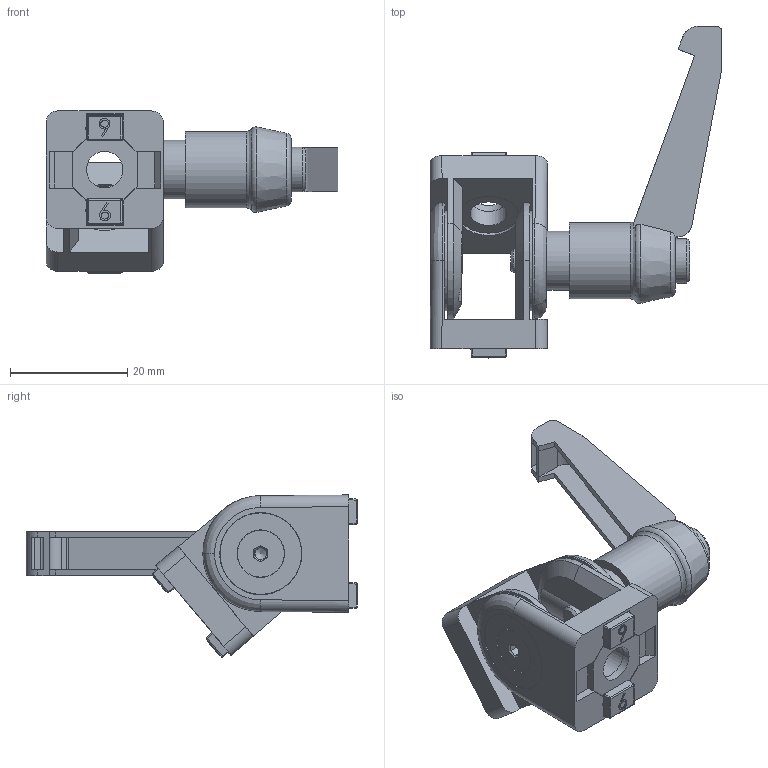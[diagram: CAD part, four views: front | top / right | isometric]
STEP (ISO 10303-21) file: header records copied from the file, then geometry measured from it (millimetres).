
FILE_DESCRIPTION((''),'2;1');
FILE_NAME('E:\catalogue and flyer\Profile catalogue 2015\Accessories JE info\Accessories-JE step file 31MAr16\JE-KJ2020-6_clamp.stp','2016-04-07T11:19:18',('h029'),(''),'Autodesk Inventor 11','Autodesk Inventor 11','');
FILE_SCHEMA(('AUTOMOTIVE_DESIGN { 1 0 10303 214 1 1 1 1 }'));
Length unit declared in the file: centimetre
Products named in the file (12): JE-KJ2020-6_clamp; 1#; 2#; 3#; 4#; 5#Importiert2A; 5#Rotation1A; 6#; 7#; 8#; 9#; 10#
Assembly tree (11 placements, depth 2):
  JE-KJ2020-6_clamp
    1#
    2#
    3#
    4#
    5#Importiert2A
    5#Rotation1A
    6#
    7#
    8#
    9#
    10#
Bounding box: 49.73 x 56.55 x 27.62 mm (x, y, z)
Volume: 10404.5 mm3; surface area: 10971.9 mm2
Topology: 11 solids, 11 shells, 471 faces, 1164 edges, 738 vertices
Faces by surface type: plane 257, cylinder 118, bspline 41, torus 22, cone 17, sphere 16
Full cylindrical faces by diameter (mm): 1.5 x8, 4 x2, 4.5 x1, 5 x1, 6 x1, 6.2 x5, 7 x1, 7.6 x1, 8 x2, 8.1 x1, 10 x1, 10.3 x2, 10.9 x2, 11 x4, 13 x1, 13.9 x2, 14 x2, 17 x2, 17.1 x2
Entity records: 15795 total; most frequent: CARTESIAN_POINT 4993, ORIENTED_EDGE 2128, DIRECTION 2097, EDGE_CURVE 1064, AXIS2_PLACEMENT_3D 739, VERTEX_POINT 718, VECTOR 619, LINE 619
